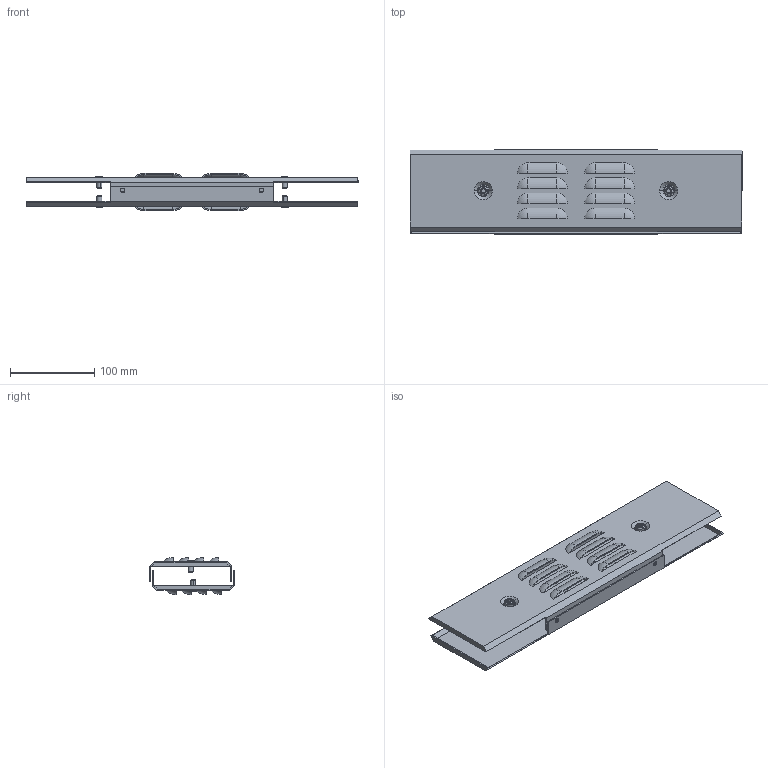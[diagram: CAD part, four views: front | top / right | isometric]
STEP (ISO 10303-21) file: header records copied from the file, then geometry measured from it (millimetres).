
FILE_DESCRIPTION (( 'STEP AP214' ), '1' );
FILE_NAME ('FO-00D-PCV-010-040-7021 Ïàíåëü öîêîëÿ âåíòèëèðóåìàÿ 100õ400 ìì RAL7021 (2 øò.êîìïë.).STEP', '2025-08-21T13:28:56', ( '' ), ( '' ), 'SwSTEP 2.0', 'SolidWorks 2023', '' );
FILE_SCHEMA (( 'AUTOMOTIVE_DESIGN' ));
Length unit declared in the file: millimetre
Products named in the file (2): Панель цоколя вентилируемая 100х400; FO-00D-PCV-010-040-7021 Панель цоколя вентилируемая 100х400 мм RAL7021 (2 шт.компл.)
Assembly tree (2 placements, depth 2):
  FO-00D-PCV-010-040-7021 Панель цоколя вентилируемая 100х400 мм RAL7021 (2 шт.компл.)
    Панель цоколя вентилируемая 100х400  x2
Bounding box: 395 x 101.23 x 44.21 mm (x, y, z)
Volume: 137623 mm3; surface area: 200361.6 mm2
Topology: 2 solids, 2 shells, 392 faces, 1028 edges, 664 vertices
Faces by surface type: plane 156, cylinder 132, torus 72, cone 32
Entity records: 6249 total; most frequent: DIRECTION 1192, CARTESIAN_POINT 1047, ORIENTED_EDGE 1028, EDGE_CURVE 514, AXIS2_PLACEMENT_3D 477, VERTEX_POINT 332, CIRCLE 276, VECTOR 238
